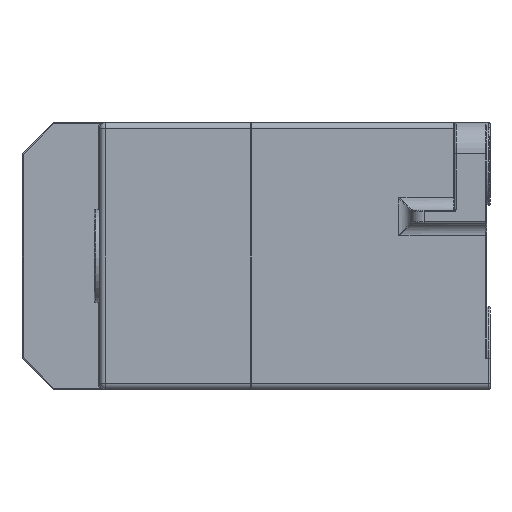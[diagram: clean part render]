
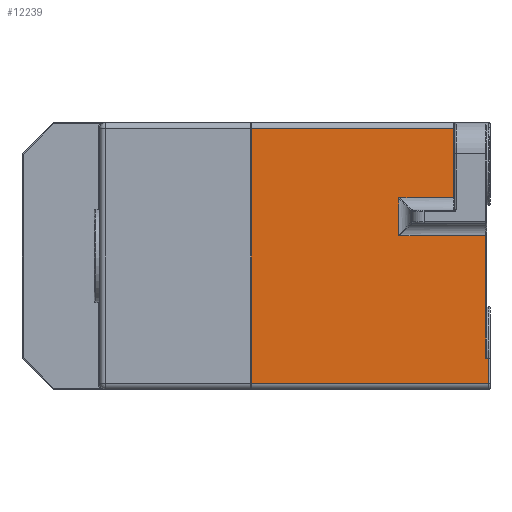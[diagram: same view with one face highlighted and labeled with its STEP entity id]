
A CAD part, left-side view. The second image highlights one B-rep face of the part: STEP entity #12239.
In plain terms, the highlighted planar face has unit normal (-1, 0, 0).
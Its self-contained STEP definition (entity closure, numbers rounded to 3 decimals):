
#58 = DIRECTION ( 'NONE',  ( 0., -1., 0. ) ) ;
#315 = LINE ( 'NONE', #5203, #9792 ) ;
#641 = FACE_OUTER_BOUND ( 'NONE', #6412, .T. ) ;
#809 = CARTESIAN_POINT ( 'NONE',  ( -38.533, 2.314, -16.861 ) ) ;
#1029 = VERTEX_POINT ( 'NONE', #4661 ) ;
#1209 = AXIS2_PLACEMENT_3D ( 'NONE', #10711, #11920, #14680 ) ;
#1688 = LINE ( 'NONE', #15409, #2909 ) ;
#2587 = VERTEX_POINT ( 'NONE', #2693 ) ;
#2693 = CARTESIAN_POINT ( 'NONE',  ( -38.533, 16.114, -16.861 ) ) ;
#2909 = VECTOR ( 'NONE', #14174, 1000. ) ;
#2990 = VECTOR ( 'NONE', #14971, 1000. ) ;
#3063 = VERTEX_POINT ( 'NONE', #14479 ) ;
#3794 = VECTOR ( 'NONE', #58, 1000. ) ;
#4163 = EDGE_CURVE ( 'NONE', #12806, #16037, #10216, .T. ) ;
#4463 = CARTESIAN_POINT ( 'NONE',  ( -38.533, 39.614, -41.361 ) ) ;
#4602 = DIRECTION ( 'NONE',  ( 0., -1., 0. ) ) ;
#4661 = CARTESIAN_POINT ( 'NONE',  ( -38.533, 7.414, 0.139 ) ) ;
#4872 = CARTESIAN_POINT ( 'NONE',  ( -38.533, 16.114, -10.861 ) ) ;
#5016 = VECTOR ( 'NONE', #6469, 1000. ) ;
#5066 = ORIENTED_EDGE ( 'NONE', *, *, #14842, .T. ) ;
#5119 = CARTESIAN_POINT ( 'NONE',  ( -38.533, 1.814, -40.361 ) ) ;
#5203 = CARTESIAN_POINT ( 'NONE',  ( -38.533, 2.314, -41.361 ) ) ;
#5403 = CARTESIAN_POINT ( 'NONE',  ( -38.533, 7.414, -41.361 ) ) ;
#5420 = EDGE_CURVE ( 'NONE', #11971, #14636, #10794, .T. ) ;
#5829 = EDGE_CURVE ( 'NONE', #1029, #7721, #15291, .T. ) ;
#5959 = CARTESIAN_POINT ( 'NONE',  ( -38.533, 7.414, -10.861 ) ) ;
#6412 = EDGE_LOOP ( 'NONE', ( #8854, #10666, #10041, #5066, #16537, #7243, #8062, #15904, #6874, #15662 ) ) ;
#6460 = DIRECTION ( 'NONE',  ( 0., 0., 1. ) ) ;
#6469 = DIRECTION ( 'NONE',  ( 0., 1., 0. ) ) ;
#6758 = PLANE ( 'NONE',  #1209 ) ;
#6874 = ORIENTED_EDGE ( 'NONE', *, *, #5829, .T. ) ;
#7243 = ORIENTED_EDGE ( 'NONE', *, *, #12655, .T. ) ;
#7721 = VERTEX_POINT ( 'NONE', #10561 ) ;
#8062 = ORIENTED_EDGE ( 'NONE', *, *, #5420, .T. ) ;
#8176 = CARTESIAN_POINT ( 'NONE',  ( -38.533, 1.814, -36.361 ) ) ;
#8383 = VERTEX_POINT ( 'NONE', #8176 ) ;
#8854 = ORIENTED_EDGE ( 'NONE', *, *, #4163, .T. ) ;
#8881 = EDGE_CURVE ( 'NONE', #14636, #1029, #13989, .T. ) ;
#9152 = DIRECTION ( 'NONE',  ( 0., 0., 1. ) ) ;
#9204 = VECTOR ( 'NONE', #4602, 1000. ) ;
#9246 = LINE ( 'NONE', #13232, #12116 ) ;
#9792 = VECTOR ( 'NONE', #6460, 1000. ) ;
#10041 = ORIENTED_EDGE ( 'NONE', *, *, #16977, .T. ) ;
#10216 = LINE ( 'NONE', #12358, #9204 ) ;
#10561 = CARTESIAN_POINT ( 'NONE',  ( -38.533, 39.614, 0.139 ) ) ;
#10663 = VECTOR ( 'NONE', #9152, 1000. ) ;
#10666 = ORIENTED_EDGE ( 'NONE', *, *, #12508, .T. ) ;
#10711 = CARTESIAN_POINT ( 'NONE',  ( -38.533, 39.614, -41.361 ) ) ;
#10794 = LINE ( 'NONE', #11709, #3794 ) ;
#11077 = DIRECTION ( 'NONE',  ( 0., 1., 0. ) ) ;
#11691 = CARTESIAN_POINT ( 'NONE',  ( -38.533, 39.614, 0.139 ) ) ;
#11709 = CARTESIAN_POINT ( 'NONE',  ( -38.533, 7.214, -10.861 ) ) ;
#11920 = DIRECTION ( 'NONE',  ( 1., 0., 0. ) ) ;
#11971 = VERTEX_POINT ( 'NONE', #4872 ) ;
#12116 = VECTOR ( 'NONE', #14481, 1000. ) ;
#12239 = ADVANCED_FACE ( 'NONE', ( #641 ), #6758, .F. ) ;
#12341 = LINE ( 'NONE', #15154, #15007 ) ;
#12358 = CARTESIAN_POINT ( 'NONE',  ( -38.533, 39.614, -40.361 ) ) ;
#12508 = EDGE_CURVE ( 'NONE', #16037, #8383, #12341, .T. ) ;
#12655 = EDGE_CURVE ( 'NONE', #2587, #11971, #9246, .T. ) ;
#12806 = VERTEX_POINT ( 'NONE', #16057 ) ;
#12966 = EDGE_CURVE ( 'NONE', #14027, #2587, #14776, .T. ) ;
#13232 = CARTESIAN_POINT ( 'NONE',  ( -38.533, 16.114, -41.361 ) ) ;
#13568 = VECTOR ( 'NONE', #11077, 1000. ) ;
#13627 = CARTESIAN_POINT ( 'NONE',  ( -38.533, 39.614, -16.861 ) ) ;
#13989 = LINE ( 'NONE', #5403, #10663 ) ;
#14027 = VERTEX_POINT ( 'NONE', #809 ) ;
#14174 = DIRECTION ( 'NONE',  ( 0., 1., 0. ) ) ;
#14479 = CARTESIAN_POINT ( 'NONE',  ( -38.533, 2.314, -36.361 ) ) ;
#14481 = DIRECTION ( 'NONE',  ( 0., 0., 1. ) ) ;
#14520 = EDGE_CURVE ( 'NONE', #12806, #7721, #16364, .T. ) ;
#14636 = VERTEX_POINT ( 'NONE', #5959 ) ;
#14680 = DIRECTION ( 'NONE',  ( 0., 0., -1. ) ) ;
#14776 = LINE ( 'NONE', #13627, #13568 ) ;
#14842 = EDGE_CURVE ( 'NONE', #3063, #14027, #315, .T. ) ;
#14971 = DIRECTION ( 'NONE',  ( 0., 0., 1. ) ) ;
#15007 = VECTOR ( 'NONE', #16805, 1000. ) ;
#15154 = CARTESIAN_POINT ( 'NONE',  ( -38.533, 1.814, -41.361 ) ) ;
#15291 = LINE ( 'NONE', #11691, #5016 ) ;
#15409 = CARTESIAN_POINT ( 'NONE',  ( -38.533, 1.614, -36.361 ) ) ;
#15662 = ORIENTED_EDGE ( 'NONE', *, *, #14520, .F. ) ;
#15904 = ORIENTED_EDGE ( 'NONE', *, *, #8881, .T. ) ;
#16037 = VERTEX_POINT ( 'NONE', #5119 ) ;
#16057 = CARTESIAN_POINT ( 'NONE',  ( -38.533, 39.614, -40.361 ) ) ;
#16364 = LINE ( 'NONE', #4463, #2990 ) ;
#16537 = ORIENTED_EDGE ( 'NONE', *, *, #12966, .T. ) ;
#16805 = DIRECTION ( 'NONE',  ( 0., 0., 1. ) ) ;
#16977 = EDGE_CURVE ( 'NONE', #8383, #3063, #1688, .T. ) ;
